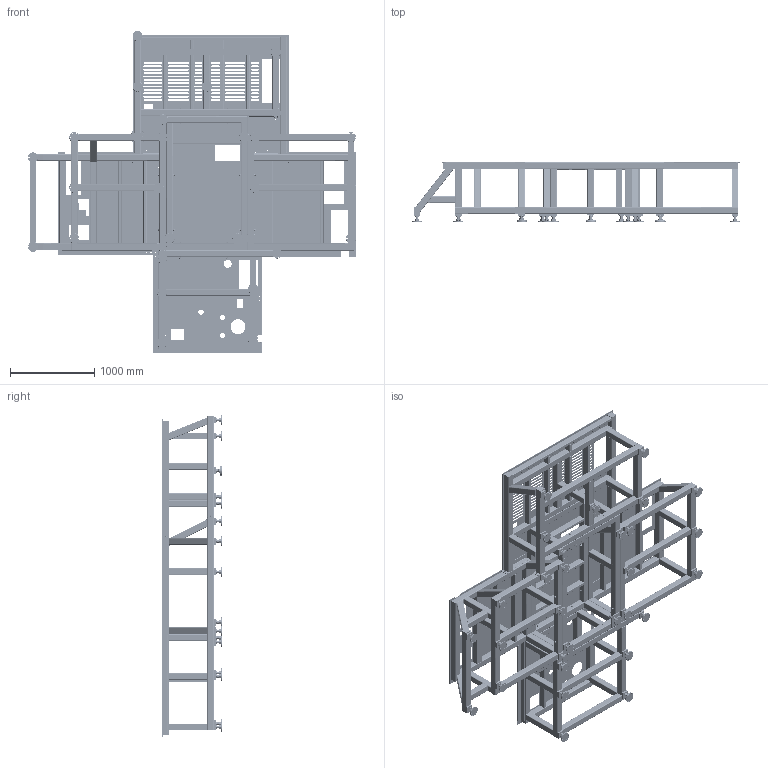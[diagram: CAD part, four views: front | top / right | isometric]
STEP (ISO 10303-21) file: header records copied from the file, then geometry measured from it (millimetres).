
FILE_DESCRIPTION (( 'STEP AP214' ), '1' );
FILE_NAME ('PIC-LAM_MACH4B-01-3D-MODEL-indB.STEP', '2025-10-31T17:53:27', ( '' ), ( '' ), 'SwSTEP 2.0', 'SolidWorks 2017', '' );
FILE_SCHEMA (( 'AUTOMOTIVE_DESIGN' ));
Length unit declared in the file: millimetre
Products named in the file (18): PIC-LAM_MACH4B-02_D‚faut<Brut d''usinage>; PIC-LAM_MACH4A-05_upn; z_NUT_H_NUT H M 10; PIC-LAM_MACH4B-ESQ-CEA; PIC-LAM_MACH4A-05; PIC-LAM_MACH4B-01-3D-MODEL-indB; Z-M12 ASSY-2_M12-88; z_NUT_H_NUT H M 12; PIC-LAM_MACH4B-03; PIC-LAM_MACH4A-05_ECRO; PIC-LAM_MACH4B-04; Z-Nut_H_CL8_ZN_NUT Hm M 30 - ISO 4035; z_Washer_WASHER M 12; Z-Tige filetée - M12_M12-130; Z-screw_din_933-m30x120-08-5; Z-M12 ASSY-2_150; Z-Tige filetée - M12_M12x200
Assembly tree (74 placements, depth 3):
  PIC-LAM_MACH4B-ESQ-CEA
  PIC-LAM_MACH4B-01-3D-MODEL-indB
    PIC-LAM_MACH4B-02_D‚faut<Brut d''usinage>
    PIC-LAM_MACH4A-05  x28
      PIC-LAM_MACH4A-05
      Z-Nut_H_CL8_ZN_NUT Hm M 30 - ISO 4035
      Z-screw_din_933-m30x120-08-5
    PIC-LAM_MACH4A-05_ECRO
      PIC-LAM_MACH4A-05
      Z-Nut_H_CL8_ZN_NUT Hm M 30 - ISO 4035  x2
      Z-screw_din_933-m30x120-08-5
    PIC-LAM_MACH4B-03
    Z-M12 ASSY-2_150  x16
      Z-Tige filetée - M12_M12x200
      z_Washer_WASHER M 12
      z_NUT_H_NUT H M 12
    Z-M12 ASSY-2_M12-88  x4
      Z-Tige filetée - M12_M12-130
      z_Washer_WASHER M 12
      z_NUT_H_NUT H M 12
    PIC-LAM_MACH4B-04
    z_NUT_H_NUT H M 10
    PIC-LAM_MACH4A-05_upn
      PIC-LAM_MACH4A-05
      Z-Nut_H_CL8_ZN_NUT Hm M 30 - ISO 4035
      Z-screw_din_933-m30x120-08-5
Bounding box: 3891 x 710 x 3820 mm (x, y, z)
Volume: 151269359 mm3; surface area: 83032448.4 mm2
Topology: 416 solids, 416 shells, 8773 faces, 21791 edges, 13906 vertices
Faces by surface type: cylinder 3744, plane 3145, cone 1824, bspline 60
Entity records: 182643 total; most frequent: CARTESIAN_POINT 32450, DIRECTION 29776, ORIENTED_EDGE 28528, EDGE_CURVE 14264, AXIS2_PLACEMENT_3D 10861, VERTEX_POINT 9399, VECTOR 8054, LINE 8054
